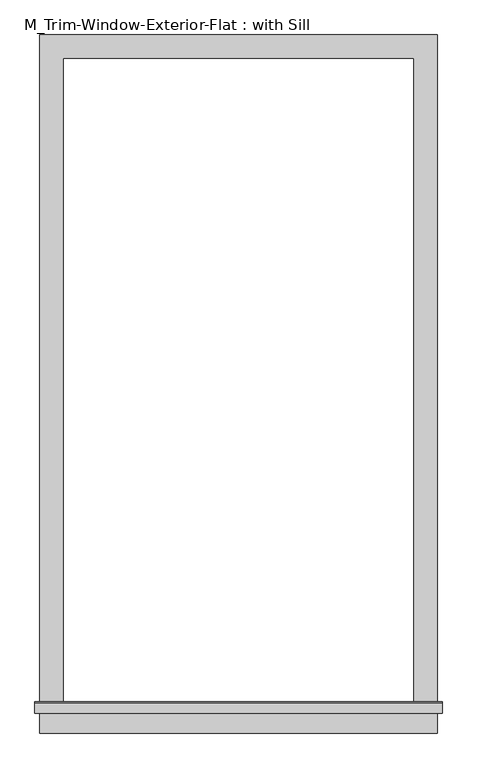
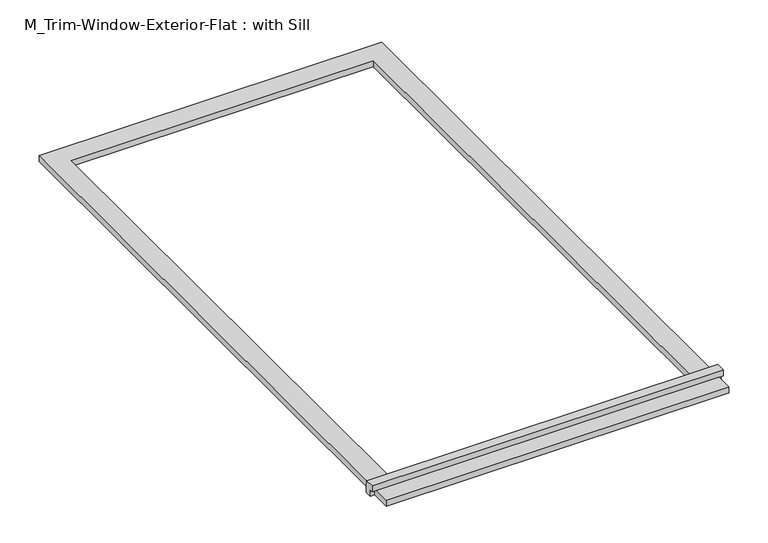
"""IFC4 building model written with IfcOpenShell, lengths in millimetres: proxy geometry, M_Trim-Window-Exterior-Flat : with Sill."""

from ifc_helpers import new_model, si_unit, frame, origin, origin_with_axes, place, context, project, spatial, polyline, outline, extrude, source, transform, mapped, element, save


def m_trim_window_exterior_flat_with_sill_09d1e46a(model_context):
    return source(origin(), model_context, "Body", "SweptSolid", [
        extrude(outline(polyline([(510.0, -1670.4323709), (510.0, -1730.4323709), (-510.0, -1730.4323709), (-510.0, -1670.4323709), (510.0, -1670.4323709)])), origin_with_axes(), (0.0, 0.0, 1.0), 19.05),
        extrude(outline(polyline([(-1680.0, 38.1), (-1652.4580645, 38.1), (-1650.0, 19.05), (-1650.0, 0.0), (-1670.4323709, 0.0), (-1670.4323709, 19.05), (-1680.0, 19.05), (-1680.0, 38.1)])), frame((-522.7, 0.0, 0.0), z_axis=(1.0, 0.0, 0.0), x_axis=(0.0, 1.0, 0.0)), (0.0, 0.0, 1.0), 1045.4),
        extrude(outline(polyline([(-510.0, 60.0), (510.0, 60.0), (510.0, -1650.0), (450.0, -1650.0), (450.0, 0.0), (-450.0, 0.0), (-450.0, -1650.0), (-510.0, -1650.0), (-510.0, 60.0)])), origin_with_axes(), (0.0, 0.0, 1.0), 19.05),
    ])


if __name__ == "__main__":
    model = new_model("IFC4")
    model_context = context("Model", 3, world=origin())
    ifc_project = project(units=[si_unit("LENGTHUNIT", "METRE", prefix="MILLI")], contexts=[model_context])
    site = spatial("IfcSite", under=ifc_project)
    building = spatial("IfcBuilding", under=site)
    placement = place(None, origin())
    m_trim_window_exterior_flat_with_sill_shape = m_trim_window_exterior_flat_with_sill_09d1e46a(model_context)
    element("IfcBuildingElementProxy", 1, Name="M_Trim-Window-Exterior-Flat : with Sill", ObjectType="M_Trim-Window-Exterior-Flat : with Sill", at=placement, inside=building, context=model_context, shape_type="MappedRepresentation", body=[
        mapped(m_trim_window_exterior_flat_with_sill_shape, transform((0.0, 0.0, 0.0), x_axis=(1.0, 0.0, 0.0), y_axis=(0.0, 1.0, 0.0), z_axis=(0.0, 0.0, 1.0))),
    ])
    save(model, "model.ifc")
